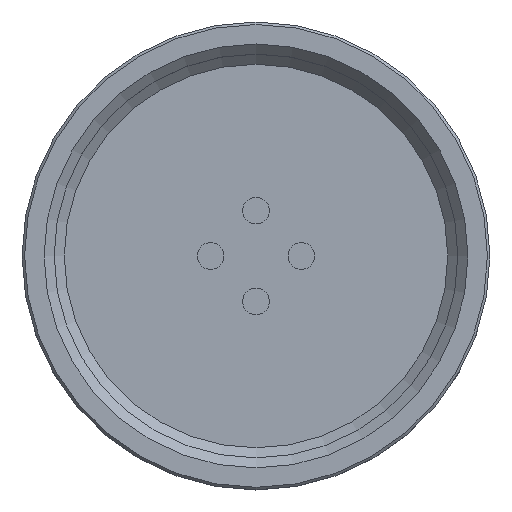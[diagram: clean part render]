
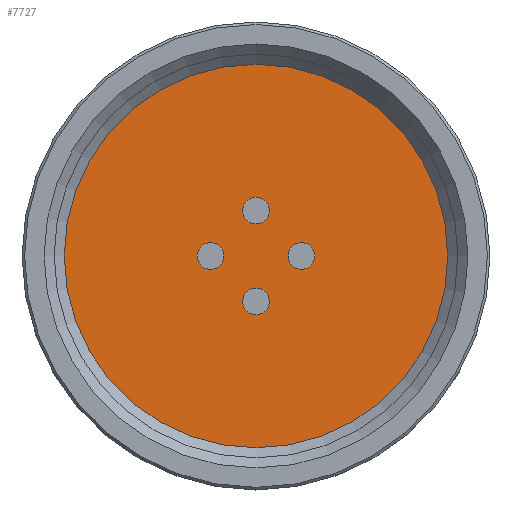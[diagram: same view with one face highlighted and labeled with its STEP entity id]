
A CAD part, top view. The second image highlights one B-rep face of the part: STEP entity #7727.
In plain terms, the highlighted planar face has unit normal (0, 0, 1).
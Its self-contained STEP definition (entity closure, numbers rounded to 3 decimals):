
#39=FACE_BOUND('',#551,.T.);
#40=FACE_BOUND('',#552,.T.);
#41=FACE_BOUND('',#553,.T.);
#42=FACE_BOUND('',#554,.T.);
#74=PLANE('',#8197);
#104=FACE_OUTER_BOUND('',#550,.T.);
#550=EDGE_LOOP('',(#4816));
#551=EDGE_LOOP('',(#4817));
#552=EDGE_LOOP('',(#4818));
#553=EDGE_LOOP('',(#4819));
#554=EDGE_LOOP('',(#4820));
#1860=CIRCLE('',#8196,38.);
#1861=CIRCLE('',#8198,2.65);
#1862=CIRCLE('',#8199,2.65);
#1863=CIRCLE('',#8200,2.65);
#1864=CIRCLE('',#8201,2.65);
#2703=VERTEX_POINT('',#12499);
#2704=VERTEX_POINT('',#12503);
#2705=VERTEX_POINT('',#12505);
#2706=VERTEX_POINT('',#12507);
#2707=VERTEX_POINT('',#12509);
#3544=EDGE_CURVE('',#2703,#2703,#1860,.T.);
#3545=EDGE_CURVE('',#2704,#2704,#1861,.T.);
#3546=EDGE_CURVE('',#2705,#2705,#1862,.T.);
#3547=EDGE_CURVE('',#2706,#2706,#1863,.T.);
#3548=EDGE_CURVE('',#2707,#2707,#1864,.T.);
#4816=ORIENTED_EDGE('',*,*,#3544,.F.);
#4817=ORIENTED_EDGE('',*,*,#3545,.F.);
#4818=ORIENTED_EDGE('',*,*,#3546,.F.);
#4819=ORIENTED_EDGE('',*,*,#3547,.F.);
#4820=ORIENTED_EDGE('',*,*,#3548,.F.);
#7727=ADVANCED_FACE('',(#104,#39,#40,#41,#42),#74,.T.);
#8196=AXIS2_PLACEMENT_3D('',#12501,#9512,#9513);
#8197=AXIS2_PLACEMENT_3D('',#12502,#9514,#9515);
#8198=AXIS2_PLACEMENT_3D('',#12504,#9516,#9517);
#8199=AXIS2_PLACEMENT_3D('',#12506,#9518,#9519);
#8200=AXIS2_PLACEMENT_3D('',#12508,#9520,#9521);
#8201=AXIS2_PLACEMENT_3D('',#12510,#9522,#9523);
#9512=DIRECTION('center_axis',(0.,0.,-1.));
#9513=DIRECTION('ref_axis',(-1.,0.,0.));
#9514=DIRECTION('center_axis',(0.,0.,1.));
#9515=DIRECTION('ref_axis',(-1.,0.,0.));
#9516=DIRECTION('center_axis',(0.,0.,1.));
#9517=DIRECTION('ref_axis',(-1.,0.,0.));
#9518=DIRECTION('center_axis',(0.,0.,1.));
#9519=DIRECTION('ref_axis',(-1.,0.,0.));
#9520=DIRECTION('center_axis',(0.,0.,1.));
#9521=DIRECTION('ref_axis',(-1.,0.,0.));
#9522=DIRECTION('center_axis',(0.,0.,1.));
#9523=DIRECTION('ref_axis',(-1.,0.,0.));
#12499=CARTESIAN_POINT('',(38.,0.,-7.5));
#12501=CARTESIAN_POINT('Origin',(0.,0.,-7.5));
#12502=CARTESIAN_POINT('Origin',(0.,0.,-7.5));
#12503=CARTESIAN_POINT('',(-6.35,0.,-7.5));
#12504=CARTESIAN_POINT('Origin',(-9.,0.,-7.5));
#12505=CARTESIAN_POINT('',(2.65,9.,-7.5));
#12506=CARTESIAN_POINT('Origin',(0.,9.,-7.5));
#12507=CARTESIAN_POINT('',(11.65,0.,-7.5));
#12508=CARTESIAN_POINT('Origin',(9.,0.,-7.5));
#12509=CARTESIAN_POINT('',(2.65,-9.,-7.5));
#12510=CARTESIAN_POINT('Origin',(0.,-9.,-7.5));
